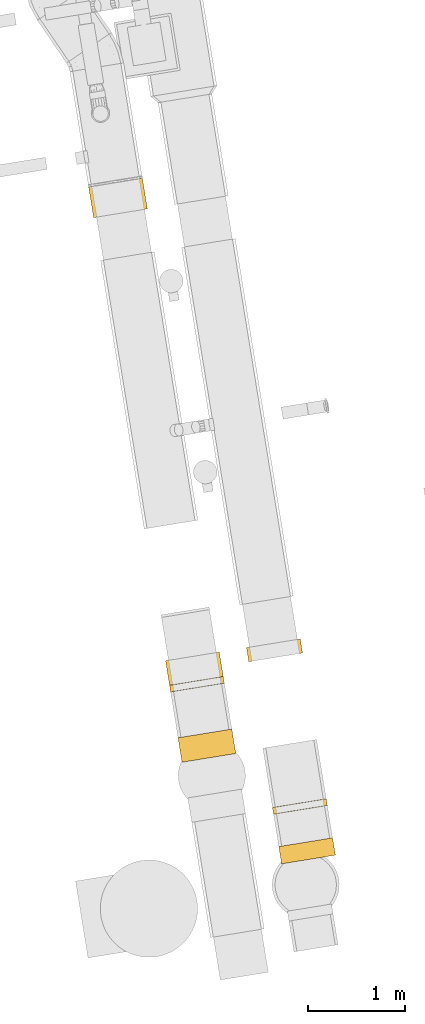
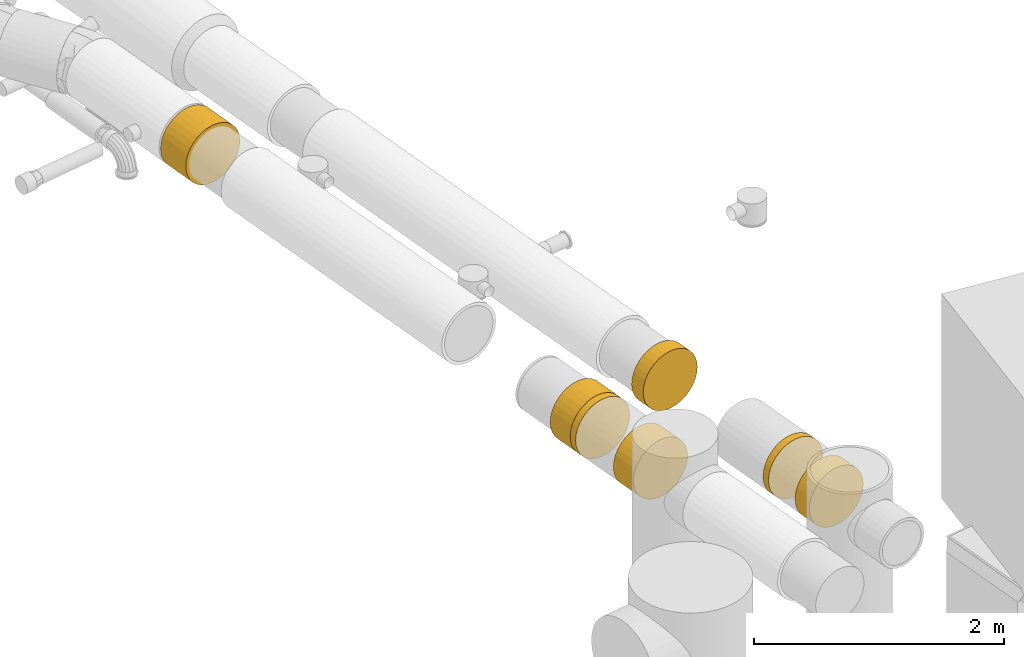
# One storey, part 8 of 39: 7 coverings.
"""IFC2X3 building model written with IfcOpenShell, lengths in millimetres."""

from ifc_helpers import new_model, entity, si_unit, converted_unit, derived_unit, direction, frame, origin, origin_with_axes, place, context, subcontext, project, spatial, faceted_brep, type_object, element, save


model = new_model("IFC2X3")

# Units and contexts
plan_context = context("Plan", 3, precision=1e-05, world=origin_with_axes())
model_context = context("Model", 3, precision=0.01, world=origin(), true_north=direction((6.12323399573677e-17, 1.0)))
body_context = subcontext(model_context, "Body", "Model", "MODEL_VIEW")
ifc_project = project(units=[converted_unit("PLANEANGLEUNIT", "DEGREE", entity("IfcPositiveLengthMeasure", 0.0174532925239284), si_unit("PLANEANGLEUNIT", "RADIAN"), dimensions=[0, 0, 0, 0, 0, 0, 0]), si_unit("AREAUNIT", "SQUARE_METRE"), si_unit("LENGTHUNIT", "METRE", prefix="MILLI"), si_unit("MASSUNIT", "GRAM", prefix="KILO"), si_unit("POWERUNIT", "WATT"), si_unit("PRESSUREUNIT", "PASCAL", prefix="KILO"), si_unit("FORCEUNIT", "NEWTON", prefix="KILO"), si_unit("ELECTRICVOLTAGEUNIT", "VOLT"), si_unit("ELECTRICCURRENTUNIT", "AMPERE"), si_unit("THERMODYNAMICTEMPERATUREUNIT", "DEGREE_CELSIUS"), si_unit("TIMEUNIT", "SECOND"), si_unit("VOLUMEUNIT", "CUBIC_METRE"), derived_unit("LINEARVELOCITYUNIT", [(si_unit("LENGTHUNIT", "METRE"), 1), (si_unit("TIMEUNIT", "SECOND"), -1)]), derived_unit("VOLUMETRICFLOWRATEUNIT", [(si_unit("VOLUMEUNIT", "CUBIC_METRE"), 1), (si_unit("TIMEUNIT", "SECOND"), -1)]), derived_unit("THERMALTRANSMITTANCEUNIT", [(si_unit("POWERUNIT", "WATT"), 1), (si_unit("THERMODYNAMICTEMPERATUREUNIT", "KELVIN"), -1), (si_unit("AREAUNIT", "SQUARE_METRE"), -1)]), derived_unit("SOUNDPRESSUREUNIT", [(si_unit("PRESSUREUNIT", "PASCAL"), 1)])], contexts=[model_context, plan_context])

# Site, building, storey
site_placement = place(None, frame((-0.00071070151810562, 0.00438415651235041, 0.0), z_axis=(0.0, 0.0, 1.0), x_axis=(-0.160236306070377, 0.987078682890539, 0.0)))
site = spatial("IfcSite", under=ifc_project, at=site_placement, Name="Default", CompositionType="ELEMENT")
building_placement = place(site_placement, origin_with_axes())
building = spatial("IfcBuilding", under=site, at=building_placement, CompositionType="ELEMENT")
storey_placement = place(building_placement, frame((0.0, 0.0, 58999.9999999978), z_axis=(0.0, 0.0, 1.0), x_axis=(1.0, 0.0, 0.0)))
storey = spatial("IfcBuildingStorey", under=building, at=storey_placement, Name="Nivå F", CompositionType="ELEMENT", Elevation=58999.9999999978)

# Coverings
covering_type_1 = type_object("IfcCoveringType", Name="Duct Insulation:EI 120-60", PredefinedType="INSULATION")
covering_1_placement = place(storey_placement, frame((765318.132102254, -502778.429977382, 2848.40472776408), z_axis=(0.0, 0.0, 1.0), x_axis=(1.0, 0.0, 0.0)))
element("IfcCovering", 1, at=covering_1_placement, inside=storey, type_object=covering_type_1, Name="Duct Insulation:EI 120-60", ObjectType="Duct Insulation:EI 120-60", PredefinedType="INSULATION", context=body_context, shape_type="Brep", body=[
    faceted_brep([(0.0, 540.281541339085, 174.443911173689), (0.0, 514.406763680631, 126.035606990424), (0.0, 479.585170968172, 83.6053735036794), (0.0, 437.154937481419, 48.783780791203), (0.0, 388.746633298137, 22.9090031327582), (0.0, 336.220562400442, 6.97539372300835), (0.0, 281.595272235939, 1.5952722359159), (0.0, 226.969982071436, 6.97539372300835), (0.0, 174.443911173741, 22.9090031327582), (0.0, 126.035606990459, 48.783780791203), (0.0, 83.6053735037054, 83.6053735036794), (0.0, 48.7837807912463, 126.035606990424), (0.0, 22.9090031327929, 174.443911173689), (0.0, 6.97539372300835, 226.969982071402), (0.0, 1.59527223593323, 281.595272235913), (0.0, 6.97539372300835, 336.220562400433), (0.0, 22.9090031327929, 388.746633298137), (0.0, 48.7837807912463, 437.154937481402), (0.0, 83.6053735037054, 479.585170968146), (0.0, 126.035606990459, 514.406763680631), (0.0, 174.443911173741, 540.281541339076), (0.0, 226.969982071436, 556.215150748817), (0.0, 281.595272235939, 561.595272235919), (0.0, 336.220562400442, 556.215150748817), (0.0, 388.746633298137, 540.281541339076), (0.0, 437.154937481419, 514.406763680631), (0.0, 479.585170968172, 479.585170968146), (0.0, 514.406763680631, 437.154937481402), (0.0, 540.281541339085, 388.746633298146), (0.0, 556.215150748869, 336.220562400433), (0.0, 561.595272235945, 281.595272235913), (0.0, 556.215150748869, 226.969982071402), (254.458321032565, 22.9090031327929, 174.443911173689), (254.458321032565, 48.7837807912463, 126.035606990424), (254.458321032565, 83.6053735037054, 83.6053735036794), (254.458321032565, 126.035606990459, 48.783780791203), (254.458321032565, 174.443911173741, 22.9090031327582), (254.458321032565, 226.969982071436, 6.97539372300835), (254.458321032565, 281.595272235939, 1.5952722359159), (254.458321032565, 336.220562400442, 6.97539372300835), (254.458321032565, 388.746633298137, 22.9090031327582), (254.458321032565, 437.154937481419, 48.783780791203), (254.458321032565, 479.585170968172, 83.6053735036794), (254.458321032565, 514.406763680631, 126.035606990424), (254.458321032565, 540.281541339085, 174.443911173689), (254.458321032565, 556.215150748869, 226.969982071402), (254.458321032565, 561.595272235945, 281.595272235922), (254.458321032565, 556.215150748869, 336.220562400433), (254.458321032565, 540.281541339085, 388.746633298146), (254.458321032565, 514.406763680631, 437.154937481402), (254.458321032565, 479.585170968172, 479.585170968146), (254.458321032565, 437.154937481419, 514.406763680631), (254.458321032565, 388.746633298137, 540.281541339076), (254.458321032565, 336.220562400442, 556.215150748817), (254.458321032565, 281.595272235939, 561.595272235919), (254.458321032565, 226.969982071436, 556.215150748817), (254.458321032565, 174.443911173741, 540.281541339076), (254.458321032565, 126.035606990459, 514.406763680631), (254.458321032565, 83.6053735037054, 479.585170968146), (254.458321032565, 48.7837807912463, 437.154937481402), (254.458321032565, 22.9090031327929, 388.746633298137), (254.458321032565, 6.97539372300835, 336.220562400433), (254.458321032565, 1.59527223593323, 281.595272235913), (254.458321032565, 6.97539372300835, 226.969982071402)], [[[0, 1, 2, 3, 4, 5, 6, 7, 8, 9, 10, 11, 12, 13, 14, 15, 16, 17, 18, 19, 20, 21, 22, 23, 24, 25, 26, 27, 28, 29, 30, 31]], [[32, 33, 34, 35, 36, 37, 38, 39, 40, 41, 42, 43, 44, 45, 46, 47, 48, 49, 50, 51, 52, 53, 54, 55, 56, 57, 58, 59, 60, 61, 62, 63]], [[38, 37, 7, 6]], [[35, 34, 10, 9]], [[35, 9, 8, 36]], [[36, 8, 7, 37]], [[11, 33, 32, 12]], [[12, 32, 63, 13]], [[13, 63, 62, 14]], [[10, 34, 33, 11]], [[15, 61, 60, 16]], [[16, 60, 59, 17]], [[17, 59, 58, 18]], [[62, 61, 15, 14]], [[19, 57, 56, 20]], [[20, 56, 55, 21]], [[21, 55, 54, 22]], [[18, 58, 57, 19]], [[23, 53, 52, 24]], [[24, 52, 51, 25]], [[25, 51, 50, 26]], [[54, 53, 23, 22]], [[27, 49, 48, 28]], [[28, 48, 47, 29]], [[29, 47, 46, 30]], [[26, 50, 49, 27]], [[31, 45, 44, 0]], [[0, 44, 43, 1]], [[1, 43, 42, 2]], [[46, 45, 31, 30]], [[3, 41, 40, 4]], [[4, 40, 39, 5]], [[5, 39, 38, 6]], [[2, 42, 41, 3]]]),
])
covering_2_placement = place(storey_placement, frame((764123.270194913, -503621.603887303, 2848.4042692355), z_axis=(0.0, 0.0, 1.0), x_axis=(1.0, 0.0, 0.0)))
element("IfcCovering", 2, at=covering_2_placement, inside=storey, type_object=covering_type_1, Name="Duct Insulation:EI 120-60", ObjectType="Duct Insulation:EI 120-60", PredefinedType="INSULATION", context=body_context, shape_type="Brep", body=[
    faceted_brep([(0.0, 540.281541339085, 174.443911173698), (0.0, 514.406763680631, 126.035606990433), (0.0, 479.585170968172, 83.6053735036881), (0.0, 437.154937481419, 48.7837807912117), (0.0, 388.746633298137, 22.9090031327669), (0.0, 336.220562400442, 6.97539372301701), (0.0, 281.595272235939, 1.59527223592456), (0.0, 226.969982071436, 6.97539372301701), (0.0, 174.443911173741, 22.9090031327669), (0.0, 126.035606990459, 48.7837807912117), (0.0, 83.6053735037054, 83.6053735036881), (0.0, 48.7837807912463, 126.035606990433), (0.0, 22.9090031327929, 174.443911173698), (0.0, 6.97539372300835, 226.96998207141), (0.0, 1.59527223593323, 281.595272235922), (0.0, 6.97539372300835, 336.220562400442), (0.0, 22.9090031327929, 388.746633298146), (0.0, 48.7837807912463, 437.15493748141), (0.0, 83.6053735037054, 479.585170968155), (0.0, 126.035606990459, 514.40676368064), (0.0, 174.443911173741, 540.281541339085), (0.0, 226.969982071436, 556.215150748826), (0.0, 281.595272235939, 561.595272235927), (0.0, 336.220562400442, 556.215150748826), (0.0, 388.746633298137, 540.281541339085), (0.0, 437.154937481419, 514.40676368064), (0.0, 479.585170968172, 479.585170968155), (0.0, 514.406763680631, 437.15493748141), (0.0, 540.281541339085, 388.746633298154), (0.0, 556.215150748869, 336.220562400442), (0.0, 561.595272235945, 281.595272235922), (0.0, 556.215150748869, 226.96998207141), (179.714434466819, 22.9090031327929, 174.443911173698), (179.714434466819, 48.7837807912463, 126.035606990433), (179.714434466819, 83.6053735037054, 83.6053735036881), (179.714434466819, 126.035606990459, 48.7837807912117), (179.714434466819, 174.443911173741, 22.9090031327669), (179.714434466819, 226.969982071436, 6.97539372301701), (179.714434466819, 281.595272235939, 1.59527223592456), (179.714434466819, 336.220562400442, 6.97539372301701), (179.714434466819, 388.746633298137, 22.9090031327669), (179.714434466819, 437.154937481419, 48.7837807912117), (179.714434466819, 479.585170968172, 83.6053735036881), (179.714434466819, 514.406763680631, 126.035606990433), (179.714434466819, 540.281541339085, 174.443911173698), (179.714434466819, 556.215150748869, 226.96998207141), (179.714434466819, 561.595272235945, 281.595272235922), (179.714434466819, 556.215150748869, 336.220562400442), (179.714434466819, 540.281541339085, 388.746633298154), (179.714434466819, 514.406763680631, 437.15493748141), (179.714434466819, 479.585170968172, 479.585170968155), (179.714434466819, 437.154937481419, 514.40676368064), (179.714434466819, 388.746633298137, 540.281541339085), (179.714434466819, 336.220562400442, 556.215150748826), (179.714434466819, 281.595272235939, 561.595272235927), (179.714434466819, 226.969982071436, 556.215150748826), (179.714434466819, 174.443911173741, 540.281541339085), (179.714434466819, 126.035606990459, 514.40676368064), (179.714434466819, 83.6053735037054, 479.585170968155), (179.714434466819, 48.7837807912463, 437.15493748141), (179.714434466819, 22.9090031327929, 388.746633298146), (179.714434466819, 6.97539372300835, 336.220562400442), (179.714434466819, 1.59527223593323, 281.595272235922), (179.714434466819, 6.97539372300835, 226.96998207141)], [[[0, 1, 2, 3, 4, 5, 6, 7, 8, 9, 10, 11, 12, 13, 14, 15, 16, 17, 18, 19, 20, 21, 22, 23, 24, 25, 26, 27, 28, 29, 30, 31]], [[32, 33, 34, 35, 36, 37, 38, 39, 40, 41, 42, 43, 44, 45, 46, 47, 48, 49, 50, 51, 52, 53, 54, 55, 56, 57, 58, 59, 60, 61, 62, 63]], [[38, 37, 7, 6]], [[35, 34, 10, 9]], [[8, 36, 35, 9]], [[36, 8, 7, 37]], [[11, 33, 32, 12]], [[12, 32, 63, 13]], [[13, 63, 62, 14]], [[10, 34, 33, 11]], [[15, 61, 60, 16]], [[16, 60, 59, 17]], [[17, 59, 58, 18]], [[62, 61, 15, 14]], [[19, 57, 56, 20]], [[20, 56, 55, 21]], [[21, 55, 54, 22]], [[18, 58, 57, 19]], [[23, 53, 52, 24]], [[24, 52, 51, 25]], [[25, 51, 50, 26]], [[54, 53, 23, 22]], [[27, 49, 48, 28]], [[28, 48, 47, 29]], [[29, 47, 46, 30]], [[26, 50, 49, 27]], [[31, 45, 44, 0]], [[0, 44, 43, 1]], [[1, 43, 42, 2]], [[46, 45, 31, 30]], [[3, 41, 40, 4]], [[4, 40, 39, 5]], [[5, 39, 38, 6]], [[2, 42, 41, 3]]]),
])
covering_3_placement = place(storey_placement, frame((766050.090423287, -502778.429977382, 2848.40472776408), z_axis=(0.0, 0.0, 1.0), x_axis=(1.0, 0.0, 0.0)))
element("IfcCovering", 3, at=covering_3_placement, inside=storey, type_object=covering_type_1, Name="Duct Insulation:EI 120-60", ObjectType="Duct Insulation:EI 120-60", PredefinedType="INSULATION", context=body_context, shape_type="Brep", body=[
    faceted_brep([(0.0, 174.443911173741, 22.9090031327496), (0.0, 126.035606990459, 48.783780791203), (0.0, 83.6053735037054, 83.6053735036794), (0.0, 48.7837807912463, 126.035606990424), (0.0, 22.9090031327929, 174.443911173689), (0.0, 6.97539372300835, 226.969982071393), (0.0, 1.59527223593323, 281.595272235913), (0.0, 6.97539372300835, 336.220562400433), (0.0, 22.9090031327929, 388.746633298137), (0.0, 48.7837807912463, 437.154937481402), (0.0, 83.6053735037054, 479.585170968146), (0.0, 126.035606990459, 514.406763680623), (0.0, 174.443911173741, 540.281541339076), (0.0, 226.969982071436, 556.215150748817), (0.0, 281.595272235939, 561.59527223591), (0.0, 336.220562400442, 556.215150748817), (0.0, 388.746633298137, 540.281541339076), (0.0, 437.154937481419, 514.406763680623), (0.0, 479.585170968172, 479.585170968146), (0.0, 514.406763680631, 437.154937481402), (0.0, 540.281541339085, 388.746633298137), (0.0, 556.215150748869, 336.220562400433), (0.0, 561.595272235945, 281.595272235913), (0.0, 556.215150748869, 226.969982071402), (0.0, 540.281541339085, 174.443911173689), (0.0, 514.406763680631, 126.035606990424), (0.0, 479.585170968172, 83.6053735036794), (0.0, 437.154937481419, 48.783780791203), (0.0, 388.746633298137, 22.9090031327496), (0.0, 336.220562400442, 6.97539372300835), (0.0, 281.595272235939, 1.5952722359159), (0.0, 226.969982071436, 6.97539372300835), (70.0, 336.220562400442, 556.215150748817), (70.0, 281.595272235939, 561.59527223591), (70.0, 226.969982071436, 556.215150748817), (70.0, 174.443911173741, 540.281541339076), (70.0, 126.035606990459, 514.406763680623), (70.0, 83.6053735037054, 479.585170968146), (70.0, 48.7837807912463, 437.154937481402), (70.0, 22.9090031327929, 388.746633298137), (70.0, 6.97539372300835, 336.220562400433), (70.0, 1.59527223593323, 281.595272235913), (70.0, 6.97539372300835, 226.969982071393), (70.0, 22.9090031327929, 174.443911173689), (70.0, 48.7837807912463, 126.035606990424), (70.0, 83.6053735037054, 83.6053735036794), (70.0, 126.035606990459, 48.783780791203), (70.0, 174.443911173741, 22.9090031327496), (70.0, 226.969982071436, 6.97539372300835), (70.0, 281.595272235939, 1.5952722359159), (70.0, 336.220562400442, 6.97539372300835), (70.0, 388.746633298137, 22.9090031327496), (70.0, 437.154937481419, 48.783780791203), (70.0, 479.585170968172, 83.6053735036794), (70.0, 514.406763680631, 126.035606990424), (70.0, 540.281541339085, 174.443911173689), (70.0, 556.215150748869, 226.969982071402), (70.0, 561.595272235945, 281.595272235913), (70.0, 556.215150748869, 336.220562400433), (70.0, 540.281541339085, 388.746633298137), (70.0, 514.406763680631, 437.154937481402), (70.0, 479.585170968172, 479.585170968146), (70.0, 437.154937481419, 514.406763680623), (70.0, 388.746633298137, 540.281541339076)], [[[0, 1, 2, 3, 4, 5, 6, 7, 8, 9, 10, 11, 12, 13, 14, 15, 16, 17, 18, 19, 20, 21, 22, 23, 24, 25, 26, 27, 28, 29, 30, 31]], [[32, 33, 34, 35, 36, 37, 38, 39, 40, 41, 42, 43, 44, 45, 46, 47, 48, 49, 50, 51, 52, 53, 54, 55, 56, 57, 58, 59, 60, 61, 62, 63]], [[7, 6, 41, 40]], [[40, 39, 8, 7]], [[38, 9, 8, 39]], [[9, 38, 37, 10]], [[11, 36, 35, 12]], [[12, 35, 34, 13]], [[13, 34, 33, 14]], [[37, 36, 11, 10]], [[15, 14, 33, 32]], [[32, 63, 16, 15]], [[62, 17, 16, 63]], [[17, 62, 61, 18]], [[59, 58, 21, 20]], [[57, 22, 21, 58]], [[19, 18, 61, 60]], [[60, 59, 20, 19]], [[23, 22, 57, 56]], [[56, 55, 24, 23]], [[54, 25, 24, 55]], [[25, 54, 53, 26]], [[51, 50, 29, 28]], [[29, 50, 49, 30]], [[27, 26, 53, 52]], [[27, 52, 51, 28]], [[31, 30, 49, 48]], [[48, 47, 0, 31]], [[46, 1, 0, 47]], [[1, 46, 45, 2]], [[43, 42, 5, 4]], [[5, 42, 41, 6]], [[3, 44, 43, 4]], [[3, 2, 45, 44]]]),
])
covering_4_placement = place(storey_placement, frame((764640.090423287, -503621.603887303, 2848.40426923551), z_axis=(0.0, 0.0, 1.0), x_axis=(1.0, 0.0, 0.0)))
element("IfcCovering", 4, at=covering_4_placement, inside=storey, type_object=covering_type_1, Name="Duct Insulation:EI 120-60", ObjectType="Duct Insulation:EI 120-60", PredefinedType="INSULATION", context=body_context, shape_type="Brep", body=[
    faceted_brep([(0.0, 174.443911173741, 22.9090031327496), (0.0, 126.035606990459, 48.783780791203), (0.0, 83.6053735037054, 83.6053735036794), (0.0, 48.7837807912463, 126.035606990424), (0.0, 22.9090031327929, 174.443911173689), (0.0, 6.97539372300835, 226.969982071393), (0.0, 1.59527223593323, 281.595272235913), (0.0, 6.97539372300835, 336.220562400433), (0.0, 22.9090031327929, 388.746633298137), (0.0, 48.7837807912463, 437.154937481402), (0.0, 83.6053735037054, 479.585170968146), (0.0, 126.035606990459, 514.406763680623), (0.0, 174.443911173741, 540.281541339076), (0.0, 226.969982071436, 556.215150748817), (0.0, 281.595272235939, 561.59527223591), (0.0, 336.220562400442, 556.215150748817), (0.0, 388.746633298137, 540.281541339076), (0.0, 437.154937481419, 514.406763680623), (0.0, 479.585170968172, 479.585170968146), (0.0, 514.406763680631, 437.154937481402), (0.0, 540.281541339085, 388.746633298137), (0.0, 556.215150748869, 336.220562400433), (0.0, 561.595272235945, 281.595272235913), (0.0, 556.215150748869, 226.969982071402), (0.0, 540.281541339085, 174.443911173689), (0.0, 514.406763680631, 126.035606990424), (0.0, 479.585170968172, 83.6053735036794), (0.0, 437.154937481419, 48.783780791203), (0.0, 388.746633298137, 22.9090031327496), (0.0, 336.220562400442, 6.97539372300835), (0.0, 281.595272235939, 1.5952722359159), (0.0, 226.969982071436, 6.97539372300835), (70.0, 336.220562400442, 556.215150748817), (70.0, 281.595272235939, 561.59527223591), (70.0, 226.969982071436, 556.215150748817), (70.0, 174.443911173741, 540.281541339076), (70.0, 126.035606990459, 514.406763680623), (70.0, 83.6053735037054, 479.585170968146), (70.0, 48.7837807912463, 437.154937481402), (70.0, 22.9090031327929, 388.746633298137), (70.0, 6.97539372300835, 336.220562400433), (70.0, 1.59527223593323, 281.595272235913), (70.0, 6.97539372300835, 226.969982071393), (70.0, 22.9090031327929, 174.443911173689), (70.0, 48.7837807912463, 126.035606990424), (70.0, 83.6053735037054, 83.6053735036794), (70.0, 126.035606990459, 48.783780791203), (70.0, 174.443911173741, 22.9090031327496), (70.0, 226.969982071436, 6.97539372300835), (70.0, 281.595272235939, 1.5952722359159), (70.0, 336.220562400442, 6.97539372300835), (70.0, 388.746633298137, 22.9090031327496), (70.0, 437.154937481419, 48.783780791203), (70.0, 479.585170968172, 83.6053735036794), (70.0, 514.406763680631, 126.035606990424), (70.0, 540.281541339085, 174.443911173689), (70.0, 556.215150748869, 226.969982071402), (70.0, 561.595272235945, 281.595272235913), (70.0, 556.215150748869, 336.220562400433), (70.0, 540.281541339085, 388.746633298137), (70.0, 514.406763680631, 437.154937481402), (70.0, 479.585170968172, 479.585170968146), (70.0, 437.154937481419, 514.406763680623), (70.0, 388.746633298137, 540.281541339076)], [[[0, 1, 2, 3, 4, 5, 6, 7, 8, 9, 10, 11, 12, 13, 14, 15, 16, 17, 18, 19, 20, 21, 22, 23, 24, 25, 26, 27, 28, 29, 30, 31]], [[32, 33, 34, 35, 36, 37, 38, 39, 40, 41, 42, 43, 44, 45, 46, 47, 48, 49, 50, 51, 52, 53, 54, 55, 56, 57, 58, 59, 60, 61, 62, 63]], [[7, 6, 41, 40]], [[40, 39, 8, 7]], [[38, 9, 8, 39]], [[9, 38, 37, 10]], [[11, 36, 35, 12]], [[12, 35, 34, 13]], [[13, 34, 33, 14]], [[37, 36, 11, 10]], [[15, 14, 33, 32]], [[32, 63, 16, 15]], [[62, 17, 16, 63]], [[17, 62, 61, 18]], [[59, 58, 21, 20]], [[57, 22, 21, 58]], [[19, 18, 61, 60]], [[60, 59, 20, 19]], [[23, 22, 57, 56]], [[56, 55, 24, 23]], [[54, 25, 24, 55]], [[25, 54, 53, 26]], [[51, 50, 29, 28]], [[29, 50, 49, 30]], [[27, 26, 53, 52]], [[27, 52, 51, 28]], [[31, 30, 49, 48]], [[48, 47, 0, 31]], [[46, 1, 0, 47]], [[1, 46, 45, 2]], [[43, 42, 5, 4]], [[5, 42, 41, 6]], [[3, 44, 43, 4]], [[3, 2, 45, 44]]]),
])
covering_5_placement = place(storey_placement, frame((766120.090423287, -502778.429977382, 2848.40472776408), z_axis=(0.0, 0.0, 1.0), x_axis=(1.0, 0.0, 0.0)))
element("IfcCovering", 5, at=covering_5_placement, inside=storey, type_object=covering_type_1, Name="Duct Insulation:EI 120-60", ObjectType="Duct Insulation:EI 120-60", PredefinedType="INSULATION", context=body_context, shape_type="Brep", body=[
    faceted_brep([(0.0, 48.7837807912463, 126.035606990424), (0.0, 22.9090031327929, 174.443911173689), (0.0, 6.97539372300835, 226.969982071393), (0.0, 1.59527223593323, 281.595272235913), (0.0, 6.97539372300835, 336.220562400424), (0.0, 22.9090031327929, 388.746633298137), (0.0, 48.7837807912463, 437.154937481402), (0.0, 83.6053735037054, 479.585170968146), (0.0, 126.035606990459, 514.406763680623), (0.0, 174.443911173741, 540.281541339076), (0.0, 226.969982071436, 556.215150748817), (0.0, 281.595272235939, 561.59527223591), (0.0, 336.220562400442, 556.215150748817), (0.0, 388.746633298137, 540.281541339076), (0.0, 437.154937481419, 514.406763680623), (0.0, 479.585170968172, 479.585170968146), (0.0, 514.406763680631, 437.154937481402), (0.0, 540.281541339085, 388.746633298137), (0.0, 556.215150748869, 336.220562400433), (0.0, 561.595272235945, 281.595272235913), (0.0, 556.215150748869, 226.969982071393), (0.0, 540.281541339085, 174.443911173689), (0.0, 514.406763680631, 126.035606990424), (0.0, 479.585170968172, 83.6053735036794), (0.0, 437.154937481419, 48.783780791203), (0.0, 388.746633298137, 22.9090031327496), (0.0, 336.220562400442, 6.97539372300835), (0.0, 281.595272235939, 1.5952722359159), (0.0, 226.969982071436, 6.97539372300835), (0.0, 174.443911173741, 22.9090031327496), (0.0, 126.035606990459, 48.783780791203), (0.0, 83.6053735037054, 83.6053735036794), (254.029220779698, 22.9090031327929, 388.746633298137), (254.029220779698, 6.97539372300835, 336.220562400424), (254.029220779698, 1.59527223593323, 281.595272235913), (254.029220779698, 6.97539372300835, 226.969982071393), (254.029220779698, 22.9090031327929, 174.443911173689), (254.029220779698, 48.7837807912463, 126.035606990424), (254.029220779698, 83.6053735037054, 83.6053735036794), (254.029220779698, 126.035606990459, 48.783780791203), (254.029220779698, 174.443911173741, 22.9090031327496), (254.029220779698, 226.969982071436, 6.97539372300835), (254.029220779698, 281.595272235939, 1.5952722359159), (254.029220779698, 336.220562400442, 6.97539372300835), (254.029220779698, 388.746633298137, 22.9090031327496), (254.029220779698, 437.154937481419, 48.783780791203), (254.029220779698, 479.585170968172, 83.6053735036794), (254.029220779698, 514.406763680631, 126.035606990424), (254.029220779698, 540.281541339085, 174.443911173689), (254.029220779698, 556.215150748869, 226.969982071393), (254.029220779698, 561.595272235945, 281.595272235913), (254.029220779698, 556.215150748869, 336.220562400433), (254.029220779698, 540.281541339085, 388.746633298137), (254.029220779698, 514.406763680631, 437.154937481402), (254.029220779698, 479.585170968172, 479.585170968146), (254.029220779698, 437.154937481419, 514.406763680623), (254.029220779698, 388.746633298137, 540.281541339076), (254.029220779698, 336.220562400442, 556.215150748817), (254.029220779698, 281.595272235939, 561.59527223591), (254.029220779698, 226.969982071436, 556.215150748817), (254.029220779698, 174.443911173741, 540.281541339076), (254.029220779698, 126.035606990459, 514.406763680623), (254.029220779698, 83.6053735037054, 479.585170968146), (254.029220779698, 48.7837807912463, 437.154937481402)], [[[0, 1, 2, 3, 4, 5, 6, 7, 8, 9, 10, 11, 12, 13, 14, 15, 16, 17, 18, 19, 20, 21, 22, 23, 24, 25, 26, 27, 28, 29, 30, 31]], [[32, 33, 34, 35, 36, 37, 38, 39, 40, 41, 42, 43, 44, 45, 46, 47, 48, 49, 50, 51, 52, 53, 54, 55, 56, 57, 58, 59, 60, 61, 62, 63]], [[50, 49, 20, 19]], [[48, 47, 22, 21]], [[49, 48, 21, 20]], [[22, 47, 46, 23]], [[25, 24, 45, 44]], [[26, 25, 44, 43]], [[27, 26, 43, 42]], [[46, 45, 24, 23]], [[28, 27, 42, 41]], [[29, 28, 41, 40]], [[30, 29, 40, 39]], [[39, 38, 31, 30]], [[1, 0, 37, 36]], [[2, 1, 36, 35]], [[3, 2, 35, 34]], [[38, 37, 0, 31]], [[4, 3, 34, 33]], [[5, 4, 33, 32]], [[6, 5, 32, 63]], [[63, 62, 7, 6]], [[9, 8, 61, 60]], [[10, 9, 60, 59]], [[11, 10, 59, 58]], [[62, 61, 8, 7]], [[12, 11, 58, 57]], [[13, 12, 57, 56]], [[14, 13, 56, 55]], [[55, 54, 15, 14]], [[17, 16, 53, 52]], [[18, 17, 52, 51]], [[19, 18, 51, 50]], [[54, 53, 16, 15]]]),
])
covering_6_placement = place(storey_placement, frame((766227.619644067, -503621.603887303, 2848.40426923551), z_axis=(0.0, 0.0, 1.0), x_axis=(1.0, 0.0, 0.0)))
element("IfcCovering", 6, at=covering_6_placement, inside=storey, type_object=covering_type_1, Name="Duct Insulation:EI 120-60", ObjectType="Duct Insulation:EI 120-60", PredefinedType="INSULATION", context=body_context, shape_type="Brep", body=[
    faceted_brep([(0.0, 48.7837807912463, 126.035606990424), (0.0, 22.9090031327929, 174.443911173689), (0.0, 6.97539372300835, 226.969982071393), (0.0, 1.59527223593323, 281.595272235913), (0.0, 6.97539372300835, 336.220562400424), (0.0, 22.9090031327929, 388.746633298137), (0.0, 48.7837807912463, 437.154937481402), (0.0, 83.6053735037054, 479.585170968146), (0.0, 126.035606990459, 514.406763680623), (0.0, 174.443911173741, 540.281541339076), (0.0, 226.969982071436, 556.215150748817), (0.0, 281.595272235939, 561.59527223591), (0.0, 336.220562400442, 556.215150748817), (0.0, 388.746633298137, 540.281541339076), (0.0, 437.154937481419, 514.406763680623), (0.0, 479.585170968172, 479.585170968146), (0.0, 514.406763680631, 437.154937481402), (0.0, 540.281541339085, 388.746633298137), (0.0, 556.215150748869, 336.220562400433), (0.0, 561.595272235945, 281.595272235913), (0.0, 556.215150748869, 226.969982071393), (0.0, 540.281541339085, 174.443911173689), (0.0, 514.406763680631, 126.035606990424), (0.0, 479.585170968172, 83.6053735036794), (0.0, 437.154937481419, 48.783780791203), (0.0, 388.746633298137, 22.9090031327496), (0.0, 336.220562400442, 6.97539372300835), (0.0, 281.595272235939, 1.5952722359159), (0.0, 226.969982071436, 6.97539372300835), (0.0, 174.443911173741, 22.9090031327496), (0.0, 126.035606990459, 48.783780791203), (0.0, 83.6053735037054, 83.6053735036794), (146.499999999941, 22.9090031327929, 388.746633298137), (146.499999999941, 6.97539372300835, 336.220562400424), (146.499999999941, 1.59527223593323, 281.595272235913), (146.499999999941, 6.97539372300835, 226.969982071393), (146.499999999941, 22.9090031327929, 174.443911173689), (146.499999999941, 48.7837807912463, 126.035606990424), (146.499999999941, 83.6053735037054, 83.6053735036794), (146.499999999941, 126.035606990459, 48.783780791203), (146.499999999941, 174.443911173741, 22.9090031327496), (146.499999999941, 226.969982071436, 6.97539372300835), (146.499999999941, 281.595272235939, 1.5952722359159), (146.499999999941, 336.220562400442, 6.97539372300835), (146.499999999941, 388.746633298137, 22.9090031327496), (146.499999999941, 437.154937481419, 48.783780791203), (146.499999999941, 479.585170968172, 83.6053735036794), (146.499999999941, 514.406763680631, 126.035606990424), (146.499999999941, 540.281541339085, 174.443911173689), (146.499999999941, 556.215150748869, 226.969982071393), (146.499999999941, 561.595272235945, 281.595272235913), (146.499999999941, 556.215150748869, 336.220562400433), (146.499999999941, 540.281541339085, 388.746633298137), (146.499999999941, 514.406763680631, 437.154937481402), (146.499999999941, 479.585170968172, 479.585170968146), (146.499999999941, 437.154937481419, 514.406763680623), (146.499999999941, 388.746633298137, 540.281541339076), (146.499999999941, 336.220562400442, 556.215150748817), (146.499999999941, 281.595272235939, 561.59527223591), (146.499999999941, 226.969982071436, 556.215150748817), (146.499999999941, 174.443911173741, 540.281541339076), (146.499999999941, 126.035606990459, 514.406763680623), (146.499999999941, 83.6053735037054, 479.585170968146), (146.499999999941, 48.7837807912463, 437.154937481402)], [[[0, 1, 2, 3, 4, 5, 6, 7, 8, 9, 10, 11, 12, 13, 14, 15, 16, 17, 18, 19, 20, 21, 22, 23, 24, 25, 26, 27, 28, 29, 30, 31]], [[32, 33, 34, 35, 36, 37, 38, 39, 40, 41, 42, 43, 44, 45, 46, 47, 48, 49, 50, 51, 52, 53, 54, 55, 56, 57, 58, 59, 60, 61, 62, 63]], [[19, 50, 49, 20]], [[48, 47, 22, 21]], [[20, 49, 48, 21]], [[46, 23, 22, 47]], [[25, 24, 45, 44]], [[26, 25, 44, 43]], [[27, 26, 43, 42]], [[46, 45, 24, 23]], [[42, 41, 28, 27]], [[41, 40, 29, 28]], [[30, 29, 40, 39]], [[39, 38, 31, 30]], [[1, 0, 37, 36]], [[2, 1, 36, 35]], [[3, 2, 35, 34]], [[38, 37, 0, 31]], [[4, 3, 34, 33]], [[5, 4, 33, 32]], [[6, 5, 32, 63]], [[63, 62, 7, 6]], [[9, 8, 61, 60]], [[10, 9, 60, 59]], [[11, 10, 59, 58]], [[62, 61, 8, 7]], [[12, 11, 58, 57]], [[13, 12, 57, 56]], [[14, 13, 56, 55]], [[55, 54, 15, 14]], [[17, 16, 53, 52]], [[18, 17, 52, 51]], [[19, 18, 51, 50]], [[54, 53, 16, 15]]]),
])
covering_type_2 = type_object("IfcCoveringType", Name="Duct Insulation:EI 60-30", PredefinedType="INSULATION")
covering_7_placement = place(storey_placement, frame((770989.369644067, -502778.429977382, 2848.40472776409), z_axis=(0.0, 0.0, 1.0), x_axis=(1.0, 0.0, 0.0)))
element("IfcCovering", 7, at=covering_7_placement, inside=storey, type_object=covering_type_2, Name="Duct Insulation:EI 60-30", ObjectType="Duct Insulation:EI 60-30", PredefinedType="INSULATION", context=body_context, shape_type="Brep", body=[
    faceted_brep([(0.0, 48.7837807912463, 126.035606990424), (0.0, 22.9090031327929, 174.443911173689), (0.0, 6.97539372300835, 226.969982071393), (0.0, 1.59527223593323, 281.595272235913), (0.0, 6.97539372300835, 336.220562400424), (0.0, 22.9090031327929, 388.746633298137), (0.0, 48.7837807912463, 437.154937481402), (0.0, 83.6053735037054, 479.585170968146), (0.0, 126.035606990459, 514.406763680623), (0.0, 174.443911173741, 540.281541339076), (0.0, 226.969982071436, 556.215150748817), (0.0, 281.595272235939, 561.59527223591), (0.0, 336.220562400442, 556.215150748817), (0.0, 388.746633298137, 540.281541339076), (0.0, 437.154937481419, 514.406763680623), (0.0, 479.585170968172, 479.585170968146), (0.0, 514.406763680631, 437.154937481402), (0.0, 540.281541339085, 388.746633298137), (0.0, 556.215150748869, 336.220562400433), (0.0, 561.595272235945, 281.595272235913), (0.0, 556.215150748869, 226.969982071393), (0.0, 540.281541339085, 174.443911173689), (0.0, 514.406763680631, 126.035606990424), (0.0, 479.585170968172, 83.6053735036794), (0.0, 437.154937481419, 48.783780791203), (0.0, 388.746633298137, 22.9090031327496), (0.0, 336.220562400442, 6.97539372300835), (0.0, 281.595272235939, 1.5952722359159), (0.0, 226.969982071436, 6.97539372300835), (0.0, 174.443911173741, 22.9090031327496), (0.0, 126.035606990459, 48.783780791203), (0.0, 83.6053735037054, 83.6053735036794), (320.0, 22.9090031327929, 388.746633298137), (320.0, 6.97539372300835, 336.220562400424), (320.0, 1.59527223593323, 281.595272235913), (320.0, 6.97539372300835, 226.969982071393), (320.0, 22.9090031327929, 174.443911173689), (320.0, 48.7837807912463, 126.035606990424), (320.0, 83.6053735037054, 83.6053735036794), (320.0, 126.035606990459, 48.783780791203), (320.0, 174.443911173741, 22.9090031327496), (320.0, 226.969982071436, 6.97539372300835), (320.0, 281.595272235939, 1.5952722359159), (320.0, 336.220562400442, 6.97539372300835), (320.0, 388.746633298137, 22.9090031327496), (320.0, 437.154937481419, 48.783780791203), (320.0, 479.585170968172, 83.6053735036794), (320.0, 514.406763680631, 126.035606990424), (320.0, 540.281541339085, 174.443911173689), (320.0, 556.215150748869, 226.969982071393), (320.0, 561.595272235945, 281.595272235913), (320.0, 556.215150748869, 336.220562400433), (320.0, 540.281541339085, 388.746633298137), (320.0, 514.406763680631, 437.154937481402), (320.0, 479.585170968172, 479.585170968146), (320.0, 437.154937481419, 514.406763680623), (320.0, 388.746633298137, 540.281541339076), (320.0, 336.220562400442, 556.215150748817), (320.0, 281.595272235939, 561.59527223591), (320.0, 226.969982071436, 556.215150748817), (320.0, 174.443911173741, 540.281541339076), (320.0, 126.035606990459, 514.406763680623), (320.0, 83.6053735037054, 479.585170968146), (320.0, 48.7837807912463, 437.154937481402)], [[[0, 1, 2, 3, 4, 5, 6, 7, 8, 9, 10, 11, 12, 13, 14, 15, 16, 17, 18, 19, 20, 21, 22, 23, 24, 25, 26, 27, 28, 29, 30, 31]], [[32, 33, 34, 35, 36, 37, 38, 39, 40, 41, 42, 43, 44, 45, 46, 47, 48, 49, 50, 51, 52, 53, 54, 55, 56, 57, 58, 59, 60, 61, 62, 63]], [[50, 49, 20, 19]], [[48, 47, 22, 21]], [[49, 48, 21, 20]], [[22, 47, 46, 23]], [[25, 24, 45, 44]], [[26, 25, 44, 43]], [[27, 26, 43, 42]], [[46, 45, 24, 23]], [[28, 27, 42, 41]], [[29, 28, 41, 40]], [[30, 29, 40, 39]], [[39, 38, 31, 30]], [[1, 0, 37, 36]], [[2, 1, 36, 35]], [[3, 2, 35, 34]], [[38, 37, 0, 31]], [[4, 3, 34, 33]], [[5, 4, 33, 32]], [[6, 5, 32, 63]], [[63, 62, 7, 6]], [[9, 8, 61, 60]], [[10, 9, 60, 59]], [[11, 10, 59, 58]], [[62, 61, 8, 7]], [[12, 11, 58, 57]], [[13, 12, 57, 56]], [[14, 13, 56, 55]], [[55, 54, 15, 14]], [[17, 16, 53, 52]], [[18, 17, 52, 51]], [[19, 18, 51, 50]], [[54, 53, 16, 15]]]),
])

save(model, "model.ifc")
